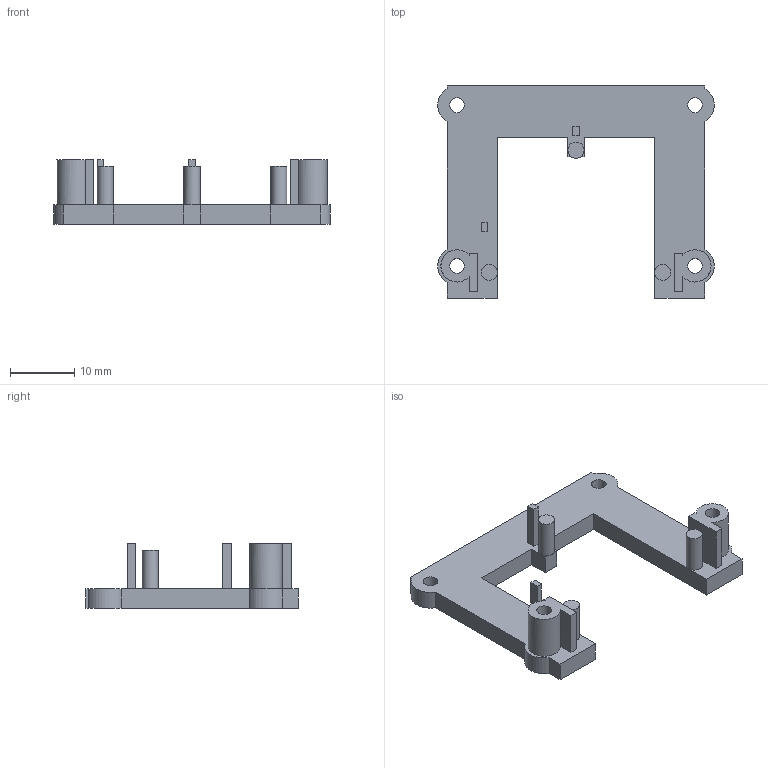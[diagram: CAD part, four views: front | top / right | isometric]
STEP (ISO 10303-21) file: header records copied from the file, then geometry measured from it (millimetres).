
FILE_DESCRIPTION(('FreeCAD Model'),'2;1');
FILE_NAME('Open CASCADE Shape Model','2026-11-02T01:51:25',('FreeCAD'),( 'FreeCAD'),'Open CASCADE STEP processor 7.8','FreeCAD','Unknown');
FILE_SCHEMA(('AUTOMOTIVE_DESIGN { 1 0 10303 214 1 1 1 1 }'));
Length unit declared in the file: millimetre
Products named in the file (1): Open CASCADE STEP translator 7.8 2
Bounding box: 43 x 33 x 10 mm (x, y, z)
Volume: 2535 mm3; surface area: 2809.8 mm2
Topology: 1 solids, 1 shells, 73 faces, 197 edges, 132 vertices
Faces by surface type: plane 60, cylinder 13
Full cylindrical faces by diameter (mm): 2.3 x4, 2.5 x3
Entity records: 2317 total; most frequent: CARTESIAN_POINT 403, ORIENTED_EDGE 394, DIRECTION 385, EDGE_CURVE 197, LINE 157, VECTOR 157, VERTEX_POINT 132, AXIS2_PLACEMENT_3D 114
